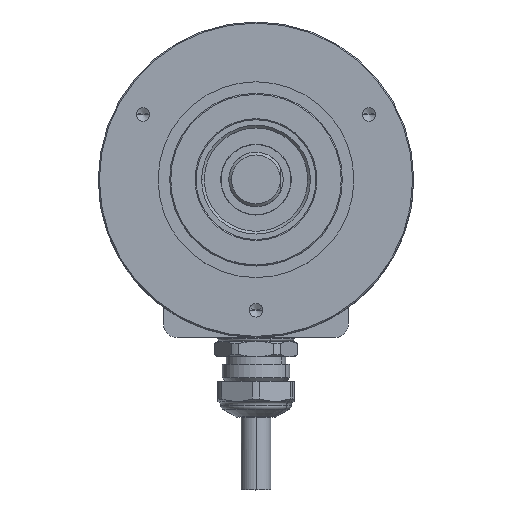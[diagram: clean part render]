
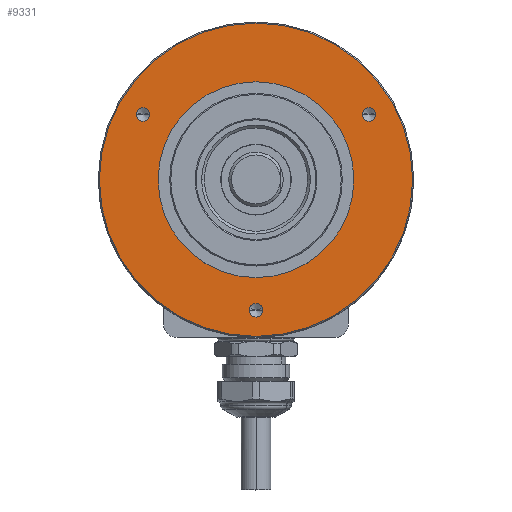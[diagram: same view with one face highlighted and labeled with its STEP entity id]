
A CAD part, top view. The second image highlights one B-rep face of the part: STEP entity #9331.
In plain terms, the highlighted planar face has unit normal (0, 0, 1).
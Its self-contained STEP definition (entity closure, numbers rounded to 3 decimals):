
#38 = CARTESIAN_POINT ( 'NONE',  ( 20.785, 12., 15.5 ) ) ;
#145 = CIRCLE ( 'NONE', #10362, 1.25 ) ;
#169 = ORIENTED_EDGE ( 'NONE', *, *, #9205, .F. ) ;
#280 = CARTESIAN_POINT ( 'NONE',  ( 20.785, 12., 15.5 ) ) ;
#358 = EDGE_CURVE ( 'NONE', #5640, #4988, #7193, .T. ) ;
#505 = EDGE_LOOP ( 'NONE', ( #169, #2611 ) ) ;
#673 = EDGE_LOOP ( 'NONE', ( #6262, #5003 ) ) ;
#933 = FACE_BOUND ( 'NONE', #9135, .T. ) ;
#981 = DIRECTION ( 'NONE',  ( -1., 0., 0. ) ) ;
#1020 = CARTESIAN_POINT ( 'NONE',  ( 0., 0., 15.5 ) ) ;
#1489 = CARTESIAN_POINT ( 'NONE',  ( -19.535, 12., 15.5 ) ) ;
#1506 = EDGE_CURVE ( 'NONE', #4988, #5640, #3496, .T. ) ;
#1809 = CIRCLE ( 'NONE', #3193, 1.25 ) ;
#1856 = FACE_BOUND ( 'NONE', #9828, .T. ) ;
#2080 = EDGE_CURVE ( 'NONE', #7042, #5455, #2900, .T. ) ;
#2158 = CIRCLE ( 'NONE', #8223, 28.8 ) ;
#2317 = DIRECTION ( 'NONE',  ( -1., 0., 0. ) ) ;
#2409 = VERTEX_POINT ( 'NONE', #5845 ) ;
#2418 = EDGE_CURVE ( 'NONE', #10302, #2409, #6533, .T. ) ;
#2520 = AXIS2_PLACEMENT_3D ( 'NONE', #3025, #7138, #2317 ) ;
#2590 = VERTEX_POINT ( 'NONE', #3658 ) ;
#2611 = ORIENTED_EDGE ( 'NONE', *, *, #2080, .F. ) ;
#2638 = DIRECTION ( 'NONE',  ( 1., 0., 0. ) ) ;
#2662 = FACE_OUTER_BOUND ( 'NONE', #3502, .T. ) ;
#2714 = DIRECTION ( 'NONE',  ( 0., 0., -1. ) ) ;
#2813 = CARTESIAN_POINT ( 'NONE',  ( 22.035, 12., 15.5 ) ) ;
#2900 = CIRCLE ( 'NONE', #10346, 1.25 ) ;
#2925 = EDGE_CURVE ( 'NONE', #10060, #5478, #145, .T. ) ;
#2999 = DIRECTION ( 'NONE',  ( 0., 0., 1. ) ) ;
#3025 = CARTESIAN_POINT ( 'NONE',  ( 0., 0., 15.5 ) ) ;
#3190 = DIRECTION ( 'NONE',  ( -1., 0., 0. ) ) ;
#3193 = AXIS2_PLACEMENT_3D ( 'NONE', #280, #3523, #7600 ) ;
#3234 = ORIENTED_EDGE ( 'NONE', *, *, #5690, .F. ) ;
#3346 = DIRECTION ( 'NONE',  ( 0., 0., 1. ) ) ;
#3468 = ORIENTED_EDGE ( 'NONE', *, *, #358, .F. ) ;
#3496 = CIRCLE ( 'NONE', #8363, 18. ) ;
#3502 = EDGE_LOOP ( 'NONE', ( #10397, #9720 ) ) ;
#3523 = DIRECTION ( 'NONE',  ( 0., 0., 1. ) ) ;
#3566 = CARTESIAN_POINT ( 'NONE',  ( -20.785, 12., 15.5 ) ) ;
#3658 = CARTESIAN_POINT ( 'NONE',  ( 28.8, 0., 15.5 ) ) ;
#3706 = DIRECTION ( 'NONE',  ( 0., 0., 1. ) ) ;
#4258 = DIRECTION ( 'NONE',  ( 0., 0., 1. ) ) ;
#4367 = DIRECTION ( 'NONE',  ( 0., 0., 1. ) ) ;
#4394 = AXIS2_PLACEMENT_3D ( 'NONE', #5444, #2999, #6079 ) ;
#4846 = CARTESIAN_POINT ( 'NONE',  ( -1.25, -24., 15.5 ) ) ;
#4988 = VERTEX_POINT ( 'NONE', #5661 ) ;
#5003 = ORIENTED_EDGE ( 'NONE', *, *, #2925, .F. ) ;
#5200 = DIRECTION ( 'NONE',  ( 0., 0., 1. ) ) ;
#5444 = CARTESIAN_POINT ( 'NONE',  ( -20.785, 12., 15.5 ) ) ;
#5447 = CIRCLE ( 'NONE', #9058, 1.25 ) ;
#5455 = VERTEX_POINT ( 'NONE', #8852 ) ;
#5478 = VERTEX_POINT ( 'NONE', #4846 ) ;
#5536 = CARTESIAN_POINT ( 'NONE',  ( 1.25, -24., 15.5 ) ) ;
#5640 = VERTEX_POINT ( 'NONE', #6777 ) ;
#5661 = CARTESIAN_POINT ( 'NONE',  ( -18., 0., 15.5 ) ) ;
#5690 = EDGE_CURVE ( 'NONE', #2409, #10302, #1809, .T. ) ;
#5845 = CARTESIAN_POINT ( 'NONE',  ( 19.535, 12., 15.5 ) ) ;
#5849 = DIRECTION ( 'NONE',  ( -1., 0., 0. ) ) ;
#6079 = DIRECTION ( 'NONE',  ( -1., 0., 0. ) ) ;
#6262 = ORIENTED_EDGE ( 'NONE', *, *, #7433, .F. ) ;
#6293 = AXIS2_PLACEMENT_3D ( 'NONE', #6897, #3706, #10325 ) ;
#6533 = CIRCLE ( 'NONE', #7415, 1.25 ) ;
#6543 = DIRECTION ( 'NONE',  ( 0., 0., 1. ) ) ;
#6777 = CARTESIAN_POINT ( 'NONE',  ( 18., 0., 15.5 ) ) ;
#6830 = PLANE ( 'NONE',  #8385 ) ;
#6897 = CARTESIAN_POINT ( 'NONE',  ( 0., 0., 15.5 ) ) ;
#6986 = CIRCLE ( 'NONE', #6293, 28.8 ) ;
#7042 = VERTEX_POINT ( 'NONE', #1489 ) ;
#7138 = DIRECTION ( 'NONE',  ( 0., 0., 1. ) ) ;
#7176 = CARTESIAN_POINT ( 'NONE',  ( -28.8, 0., 15.5 ) ) ;
#7193 = CIRCLE ( 'NONE', #2520, 18. ) ;
#7415 = AXIS2_PLACEMENT_3D ( 'NONE', #38, #3346, #10677 ) ;
#7433 = EDGE_CURVE ( 'NONE', #5478, #10060, #5447, .T. ) ;
#7562 = ORIENTED_EDGE ( 'NONE', *, *, #2418, .F. ) ;
#7600 = DIRECTION ( 'NONE',  ( -1., 0., 0. ) ) ;
#7627 = EDGE_CURVE ( 'NONE', #8317, #2590, #2158, .T. ) ;
#7641 = DIRECTION ( 'NONE',  ( 1., 0., 0. ) ) ;
#7864 = CIRCLE ( 'NONE', #4394, 1.25 ) ;
#8179 = CARTESIAN_POINT ( 'NONE',  ( 0., -24., 15.5 ) ) ;
#8223 = AXIS2_PLACEMENT_3D ( 'NONE', #1020, #4367, #2638 ) ;
#8317 = VERTEX_POINT ( 'NONE', #7176 ) ;
#8363 = AXIS2_PLACEMENT_3D ( 'NONE', #10735, #6543, #5849 ) ;
#8385 = AXIS2_PLACEMENT_3D ( 'NONE', #8509, #2714, #7641 ) ;
#8461 = FACE_BOUND ( 'NONE', #673, .T. ) ;
#8481 = CARTESIAN_POINT ( 'NONE',  ( 0., -24., 15.5 ) ) ;
#8509 = CARTESIAN_POINT ( 'NONE',  ( 0., -18., 15.5 ) ) ;
#8852 = CARTESIAN_POINT ( 'NONE',  ( -22.035, 12., 15.5 ) ) ;
#9058 = AXIS2_PLACEMENT_3D ( 'NONE', #8179, #9806, #3190 ) ;
#9135 = EDGE_LOOP ( 'NONE', ( #3234, #7562 ) ) ;
#9205 = EDGE_CURVE ( 'NONE', #5455, #7042, #7864, .T. ) ;
#9295 = DIRECTION ( 'NONE',  ( -1., 0., 0. ) ) ;
#9331 = ADVANCED_FACE ( 'NONE', ( #8461, #933, #10097, #2662, #1856 ), #6830, .F. ) ;
#9376 = ORIENTED_EDGE ( 'NONE', *, *, #1506, .F. ) ;
#9404 = EDGE_CURVE ( 'NONE', #2590, #8317, #6986, .T. ) ;
#9720 = ORIENTED_EDGE ( 'NONE', *, *, #7627, .T. ) ;
#9806 = DIRECTION ( 'NONE',  ( 0., 0., 1. ) ) ;
#9828 = EDGE_LOOP ( 'NONE', ( #9376, #3468 ) ) ;
#10060 = VERTEX_POINT ( 'NONE', #5536 ) ;
#10097 = FACE_BOUND ( 'NONE', #505, .T. ) ;
#10302 = VERTEX_POINT ( 'NONE', #2813 ) ;
#10325 = DIRECTION ( 'NONE',  ( 1., 0., 0. ) ) ;
#10346 = AXIS2_PLACEMENT_3D ( 'NONE', #3566, #5200, #981 ) ;
#10362 = AXIS2_PLACEMENT_3D ( 'NONE', #8481, #4258, #9295 ) ;
#10397 = ORIENTED_EDGE ( 'NONE', *, *, #9404, .T. ) ;
#10677 = DIRECTION ( 'NONE',  ( -1., 0., 0. ) ) ;
#10735 = CARTESIAN_POINT ( 'NONE',  ( 0., 0., 15.5 ) ) ;
